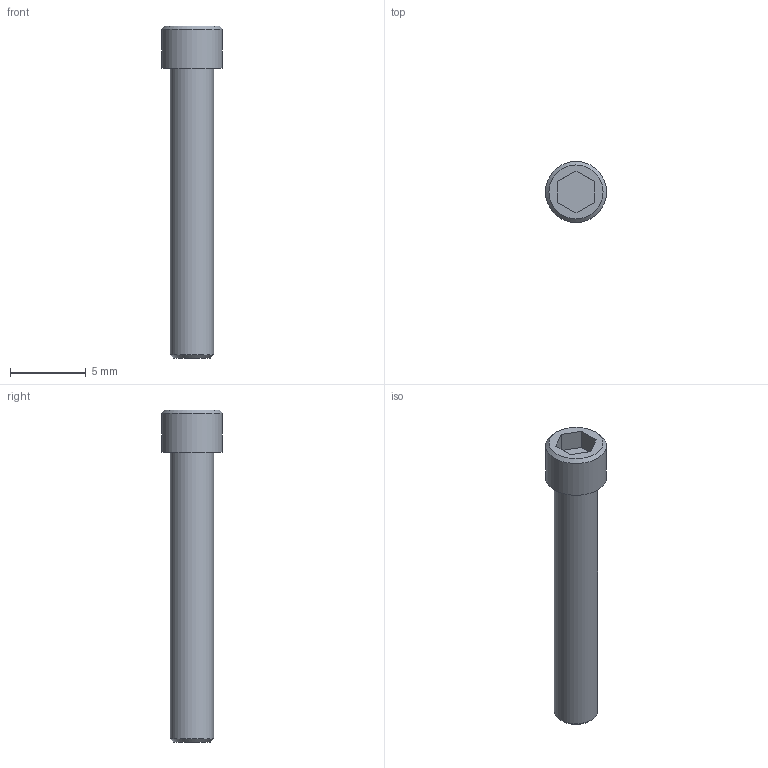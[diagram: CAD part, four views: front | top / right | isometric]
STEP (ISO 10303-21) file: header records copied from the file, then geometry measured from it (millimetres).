
FILE_DESCRIPTION((''),'2;1');
FILE_NAME('C:\Users\Stan\Desktop\import\SHCS 4-40 UNCx0.75.ipt.step','2011-08-18T17:44:32',(''),(''),'Autodesk Inventor 2012','Autodesk Inventor 2012','');
FILE_SCHEMA(('AUTOMOTIVE_DESIGN { 1 0 10303 214 1 1 1 1 }'));
Length unit declared in the file: inch
Products named in the file (1): SHCS 4-40 UNCx0.75
Bounding box: 4.01 x 4.01 x 21.84 mm (x, y, z)
Volume: 149.5 mm3; surface area: 238.5 mm2
Topology: 1 solids, 1 shells, 14 faces, 28 edges, 18 vertices
Faces by surface type: plane 10, cone 2, cylinder 2
Full cylindrical faces by diameter (mm): 2.845 x1, 4.013 x1
Entity records: 391 total; most frequent: DIRECTION 60, CARTESIAN_POINT 57, ORIENTED_EDGE 48, EDGE_CURVE 24, AXIS2_PLACEMENT_3D 21, EDGE_LOOP 20, VERTEX_POINT 18, VECTOR 18
